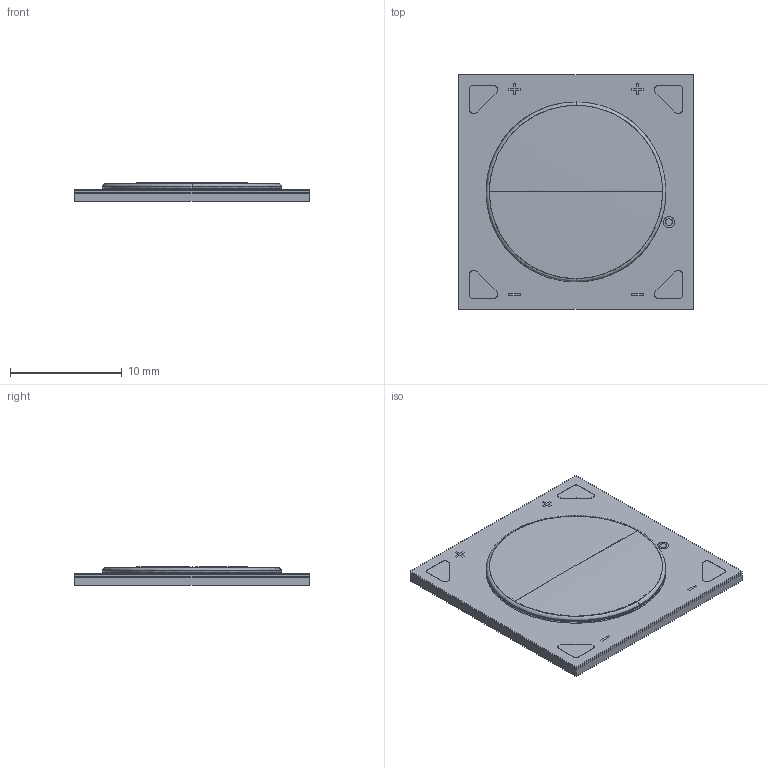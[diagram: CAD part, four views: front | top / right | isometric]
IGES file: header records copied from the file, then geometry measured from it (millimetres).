
Start section: SolidWorks IGES file using analytic representation for surfaces
Global section: file name: C:\Users\michaelsolomensky\Documents\MSdesign\Projects\800 Sub\V15\V15.IGS; native system: SolidWorks 2013; preprocessor: SolidWorks 2013; author: michaelsolomensky; date: 140205.182103; units: millimetre
Bounding box: 21 x 21 x 1.7 mm (x, y, z)
Surface area: 3075.6 mm2 (no closed solid volume)
Topology: 0 solids, 0 shells, 208 faces, 1912 edges, 1911 vertices
Faces by surface type: bspline 107, revolution 101
